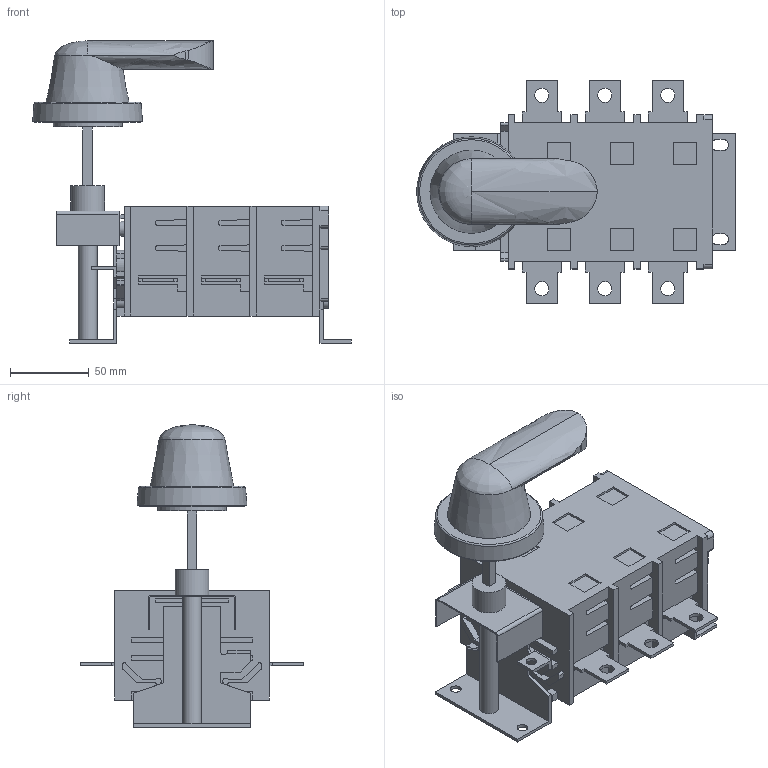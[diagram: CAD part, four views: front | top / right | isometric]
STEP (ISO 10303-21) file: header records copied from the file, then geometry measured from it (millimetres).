
FILE_DESCRIPTION (( 'STEP AP203' ), '1' );
FILE_NAME ('OptiSwitch DI-1-160-3P (m=1,8羱).STEP', '2023-02-25T21:34:14', ( '砐錪賧瘔蠈錪' ), ( '' ), 'SwSTEP 2.0', 'SolidWorks 2018', '' );
FILE_SCHEMA (( 'CONFIG_CONTROL_DESIGN' ));
Length unit declared in the file: millimetre
Products named in the file (1): OptiSwitch DI-1-160-3P (m=1,8羱)
Bounding box: 202.94 x 141.99 x 192.38 mm (x, y, z)
Volume: 982604.6 mm3; surface area: 128457.3 mm2
Topology: 1 solids, 1 shells, 453 faces, 1271 edges, 836 vertices
Faces by surface type: plane 353, cylinder 87, bspline 9, cone 2, torus 2
Full cylindrical faces by diameter (mm): 6.6 x1, 7 x3, 7.7 x1, 8.5 x2, 9 x6, 9.419 x1, 9.425 x1, 12 x1, 21.6 x1, 44 x1
Entity records: 16689 total; most frequent: CARTESIAN_POINT 4883, ORIENTED_EDGE 2490, DIRECTION 2293, EDGE_CURVE 1245, VECTOR 1047, LINE 1047, VERTEX_POINT 833, AXIS2_PLACEMENT_3D 623
